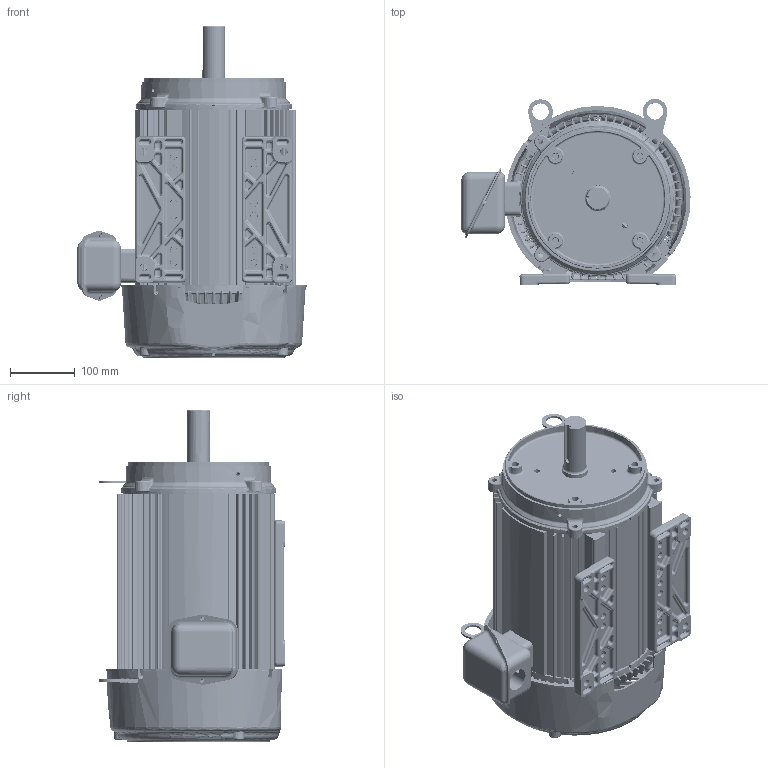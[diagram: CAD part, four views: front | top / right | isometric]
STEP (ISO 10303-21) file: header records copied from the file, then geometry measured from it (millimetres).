
FILE_DESCRIPTION((''),'2;1');
FILE_NAME('STD_CFACE_ASM','2013-04-26T',('emd2341'),('Nidec Motor Corporation'),'PRO/ENGINEER BY PARAMETRIC TECHNOLOGY CORPORATION, 2010140','PRO/ENGINEER BY PARAMETRIC TECHNOLOGY CORPORATION, 2010140','');
FILE_SCHEMA(('CONFIG_CONTROL_DESIGN'));
Length unit declared in the file: inch
Products named in the file (16): 0392317_AF0; 0361369; 0390920; 0375083-BKT_AF1; 0361252_AF0; 0375084_ASM; 0362111; 0390408; 0380744-BKT_AF1; 0298013_AF1; 0380745_ASM; 0345787; 0390417; 0376890; 0364714; STD_CFACE_ASM
Assembly tree (17 placements, depth 3):
  STD_CFACE_ASM
    0392317_AF0
    0361369  x2
    0390920
    0375084_ASM
      0375083-BKT_AF1
      0361252_AF0
    0362111
    0390408
    0380745_ASM
      0380744-BKT_AF1
      0298013_AF1
    0345787
    0390417
    0376890  x2
    0364714
Bounding box: 352.79 x 285.87 x 511.16 mm (x, y, z)
Volume: 4060372.3 mm3; surface area: 1559190.1 mm2
Topology: 17 solids, 17 shells, 6448 faces, 15357 edges, 8921 vertices
Faces by surface type: bspline 2729, cylinder 1388, plane 1199, torus 496, cone 315, sphere 297, extrusion 24
Entity records: 304979 total; most frequent: CARTESIAN_POINT 186180, ORIENTED_EDGE 28458, DIRECTION 20044, EDGE_CURVE 14229, AXIS2_PLACEMENT_3D 8457, VERTEX_POINT 8285, EDGE_LOOP 6142, B_SPLINE_CURVE_WITH_KNOTS 6066
